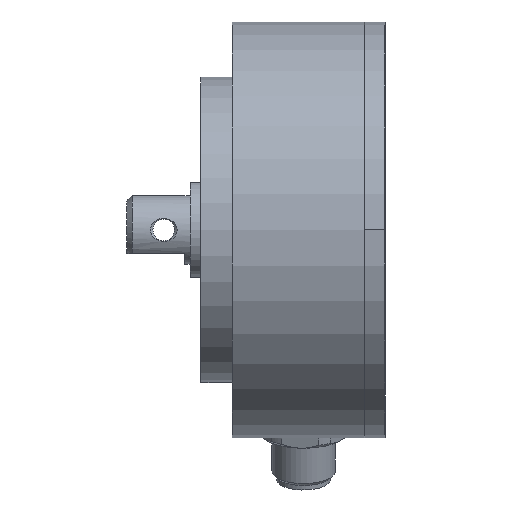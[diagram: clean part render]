
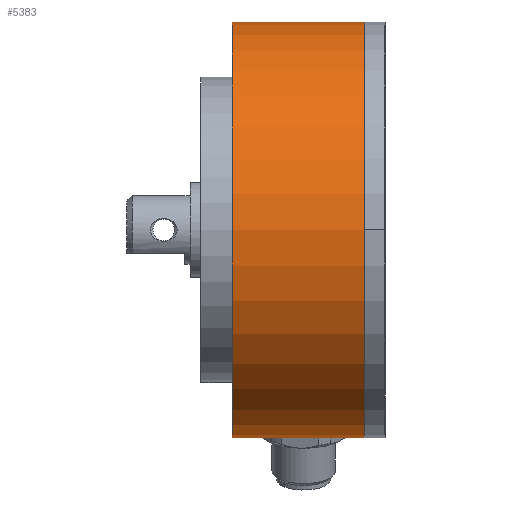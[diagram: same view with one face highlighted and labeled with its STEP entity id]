
A CAD part, left-side view. The second image highlights one B-rep face of the part: STEP entity #5383.
In plain terms, the highlighted cylindrical face has radius 39.5 mm (diameter 79 mm), a partial arc.
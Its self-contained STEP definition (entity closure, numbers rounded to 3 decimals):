
#60 = ORIENTED_EDGE ( 'NONE', *, *, #3382, .T. ) ;
#218 = FACE_OUTER_BOUND ( 'NONE', #5406, .T. ) ;
#251 = CARTESIAN_POINT ( 'NONE',  ( 0., 0., -39.5 ) ) ;
#332 = AXIS2_PLACEMENT_3D ( 'NONE', #2406, #6823, #3041 ) ;
#473 = CARTESIAN_POINT ( 'NONE',  ( 0., 0., 39.5 ) ) ;
#597 = LINE ( 'NONE', #251, #3992 ) ;
#708 = CARTESIAN_POINT ( 'NONE',  ( 0., 0., 0. ) ) ;
#769 = CIRCLE ( 'NONE', #5742, 39.5 ) ;
#852 = CARTESIAN_POINT ( 'NONE',  ( 0., 0., 39.5 ) ) ;
#1085 = DIRECTION ( 'NONE',  ( 0., -1., 0. ) ) ;
#1099 = CYLINDRICAL_SURFACE ( 'NONE', #1206, 39.5 ) ;
#1206 = AXIS2_PLACEMENT_3D ( 'NONE', #6021, #2211, #4770 ) ;
#1334 = DIRECTION ( 'NONE',  ( 0., 0., -1. ) ) ;
#2211 = DIRECTION ( 'NONE',  ( 0., -1., 0. ) ) ;
#2300 = ORIENTED_EDGE ( 'NONE', *, *, #6646, .F. ) ;
#2333 = CARTESIAN_POINT ( 'NONE',  ( 0., 25., 39.5 ) ) ;
#2406 = CARTESIAN_POINT ( 'NONE',  ( 0., 25., 0. ) ) ;
#2492 = VECTOR ( 'NONE', #1085, 1000. ) ;
#2546 = VERTEX_POINT ( 'NONE', #852 ) ;
#2899 = VERTEX_POINT ( 'NONE', #5562 ) ;
#3041 = DIRECTION ( 'NONE',  ( 0., 0., -1. ) ) ;
#3382 = EDGE_CURVE ( 'NONE', #4326, #7889, #6099, .T. ) ;
#3406 = LINE ( 'NONE', #473, #2492 ) ;
#3992 = VECTOR ( 'NONE', #4024, 1000. ) ;
#4024 = DIRECTION ( 'NONE',  ( 0., -1., 0. ) ) ;
#4191 = ORIENTED_EDGE ( 'NONE', *, *, #4353, .F. ) ;
#4294 = ORIENTED_EDGE ( 'NONE', *, *, #5233, .T. ) ;
#4326 = VERTEX_POINT ( 'NONE', #2333 ) ;
#4353 = EDGE_CURVE ( 'NONE', #4326, #2546, #3406, .T. ) ;
#4770 = DIRECTION ( 'NONE',  ( 0., 0., -1. ) ) ;
#5152 = DIRECTION ( 'NONE',  ( 0., -1., 0. ) ) ;
#5233 = EDGE_CURVE ( 'NONE', #7889, #2899, #597, .T. ) ;
#5383 = ADVANCED_FACE ( 'NONE', ( #218 ), #1099, .T. ) ;
#5406 = EDGE_LOOP ( 'NONE', ( #4191, #60, #4294, #2300 ) ) ;
#5562 = CARTESIAN_POINT ( 'NONE',  ( 0., 0., -39.5 ) ) ;
#5742 = AXIS2_PLACEMENT_3D ( 'NONE', #708, #5152, #1334 ) ;
#6021 = CARTESIAN_POINT ( 'NONE',  ( 0., 0., 0. ) ) ;
#6099 = CIRCLE ( 'NONE', #332, 39.5 ) ;
#6646 = EDGE_CURVE ( 'NONE', #2546, #2899, #769, .T. ) ;
#6823 = DIRECTION ( 'NONE',  ( 0., -1., 0. ) ) ;
#6859 = CARTESIAN_POINT ( 'NONE',  ( 0., 25., -39.5 ) ) ;
#7889 = VERTEX_POINT ( 'NONE', #6859 ) ;
